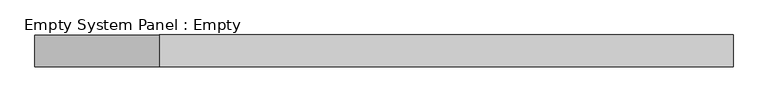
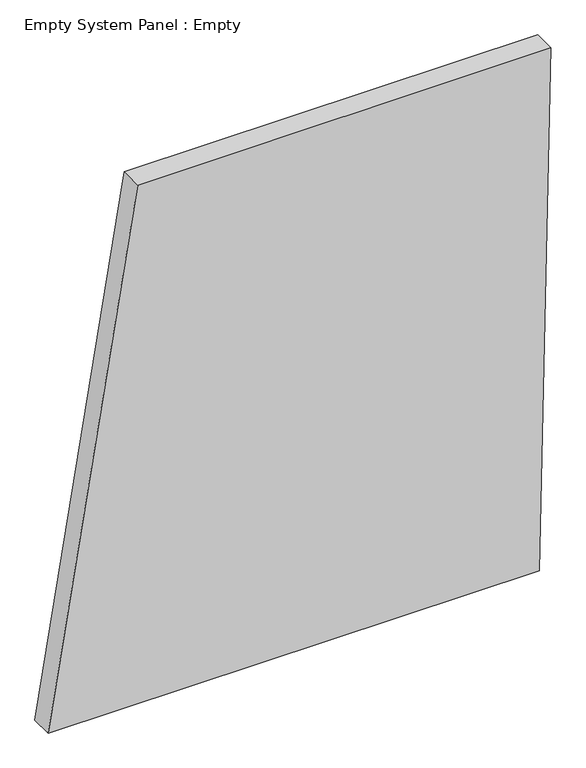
"""IFC4 building model written with IfcOpenShell, lengths in millimetres: plate geometry, Empty System Panel : Empty."""

from ifc_helpers import new_model, si_unit, frame, origin, place, context, project, spatial, polyline, outline, extrude, source, transform, mapped, element, save


def empty_system_panel_empty_4bd17fd3(model_context):
    return source(origin(), model_context, "Body", "SweptSolid", [
        extrude(outline(polyline([(0.0, -1120.5458295), (0.0, 1068.2091076), (2444.4502428, 1120.5458295), (2443.4440411, -721.8150302), (0.0, -1120.5458295)])), frame((0.0, -50.8, 0.0), z_axis=(0.0, 1.0, 0.0), x_axis=(0.0, 0.0, 1.0)), (0.0, 0.0, 1.0), 101.6),
    ])


if __name__ == "__main__":
    model = new_model("IFC4")
    model_context = context("Model", 3, world=origin())
    ifc_project = project(units=[si_unit("LENGTHUNIT", "METRE", prefix="MILLI")], contexts=[model_context])
    site = spatial("IfcSite", under=ifc_project)
    building = spatial("IfcBuilding", under=site)
    placement = place(None, origin())
    empty_system_panel_empty_shape = empty_system_panel_empty_4bd17fd3(model_context)
    element("IfcPlate", 1, ObjectType="Empty System Panel : Empty", at=placement, inside=building, context=model_context, shape_type="MappedRepresentation", body=[
        mapped(empty_system_panel_empty_shape, transform((0.0, 0.0, 0.0), x_axis=(1.0, 0.0, 0.0), y_axis=(0.0, 1.0, 0.0), z_axis=(0.0, 0.0, 1.0))),
    ])
    save(model, "model.ifc")
